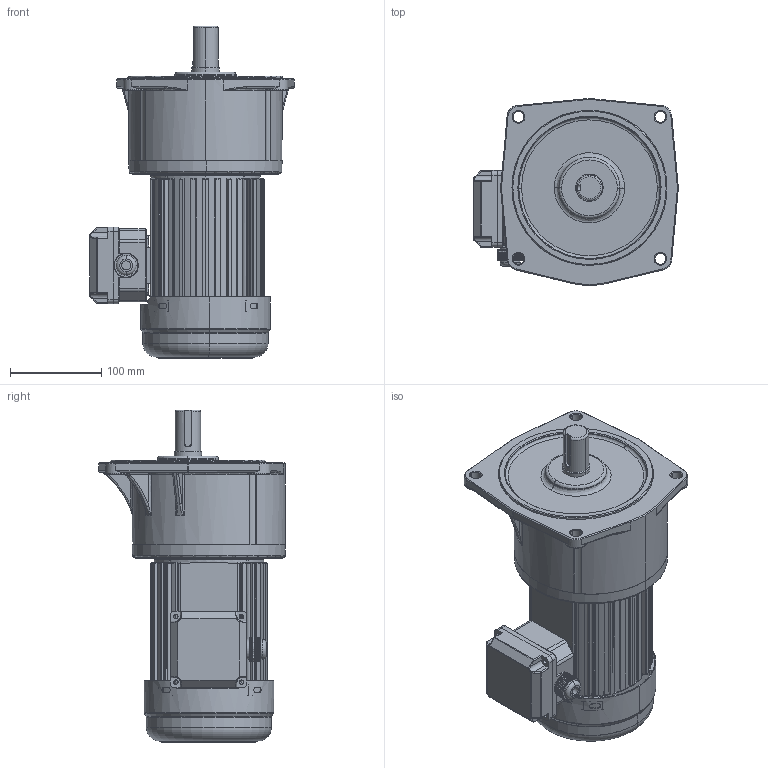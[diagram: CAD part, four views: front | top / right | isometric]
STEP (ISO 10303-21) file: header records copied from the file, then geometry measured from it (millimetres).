
FILE_DESCRIPTION (( 'STEP AP203' ), '1' );
FILE_NAME ('400W饜3#湍价陬蕾宒.STEP', '2020-04-17T05:21:05', ( '' ), ( '' ), 'SwSTEP 2.0', 'SolidWorks 2019', '' );
FILE_SCHEMA (( 'CONFIG_CONTROL_DESIGN' ));
Length unit declared in the file: millimetre
Products named in the file (7): 400W价陬瑞欶; 400W饜3#湍价陬蕾宒; 蜊輛綴諉盄碟釱3; 諉芛; 湍价陬諉盄碟裔; 400W棠憤迖殤; 400W饜3#蕾宒
Assembly tree (6 placements, depth 2):
  400W饜3#湍价陬蕾宒
    400W饜3#蕾宒
    400W棠憤迖殤
    400W价陬瑞欶
    蜊輛綴諉盄碟釱3
    諉芛
    湍价陬諉盄碟裔
Bounding box: 224.48 x 204.98 x 364 mm (x, y, z)
Volume: 3043713.1 mm3; surface area: 580883.2 mm2
Topology: 8 solids, 8 shells, 2420 faces, 6256 edges, 3915 vertices
Faces by surface type: plane 785, cylinder 682, bspline 578, torus 213, cone 150, sphere 12
Entity records: 108171 total; most frequent: CARTESIAN_POINT 52236, ORIENTED_EDGE 12482, DIRECTION 10309, EDGE_CURVE 6241, VERTEX_POINT 3915, AXIS2_PLACEMENT_3D 3763, VECTOR 2783, LINE 2783
